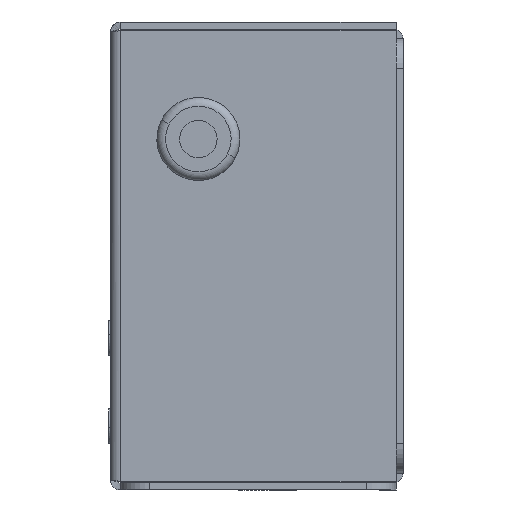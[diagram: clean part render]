
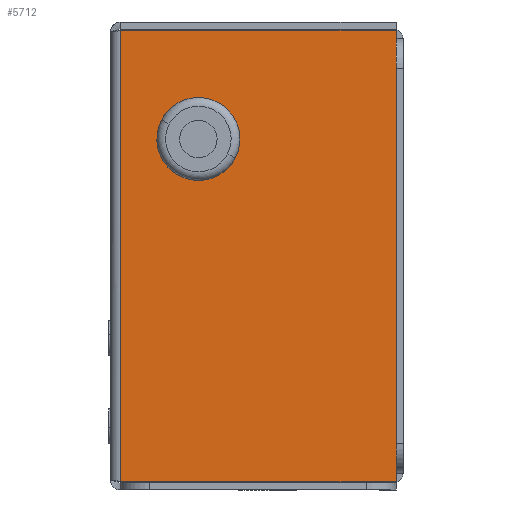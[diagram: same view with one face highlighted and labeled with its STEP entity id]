
A CAD part, left-side view. The second image highlights one B-rep face of the part: STEP entity #5712.
In plain terms, the highlighted planar face has unit normal (-1, 0, 0).
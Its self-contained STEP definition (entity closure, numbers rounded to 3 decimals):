
#588 = CARTESIAN_POINT ( 'NONE',  ( 0., -48.8, -44. ) ) ;
#696 = FACE_BOUND ( 'NONE', #3638, .T. ) ;
#1117 = DIRECTION ( 'NONE',  ( 0., 1., 0. ) ) ;
#1147 = LINE ( 'NONE', #7561, #10206 ) ;
#1356 = CARTESIAN_POINT ( 'NONE',  ( 0., -48.8, -36. ) ) ;
#1379 = DIRECTION ( 'NONE',  ( 0., -1., 0. ) ) ;
#1422 = ORIENTED_EDGE ( 'NONE', *, *, #8853, .F. ) ;
#1603 = DIRECTION ( 'NONE',  ( 0., 1., 0. ) ) ;
#1631 = EDGE_CURVE ( 'NONE', #14783, #2384, #5457, .T. ) ;
#2384 = VERTEX_POINT ( 'NONE', #10291 ) ;
#2411 = CIRCLE ( 'NONE', #7434, 5. ) ;
#2682 = VERTEX_POINT ( 'NONE', #12533 ) ;
#2785 = DIRECTION ( 'NONE',  ( 0., 1., 0. ) ) ;
#3066 = CARTESIAN_POINT ( 'NONE',  ( 0., -0.5, -78.623 ) ) ;
#3250 = DIRECTION ( 'NONE',  ( 1., 0., 0. ) ) ;
#3446 = LINE ( 'NONE', #8503, #12508 ) ;
#3638 = EDGE_LOOP ( 'NONE', ( #8477, #5368 ) ) ;
#3988 = LINE ( 'NONE', #1356, #11385 ) ;
#4300 = AXIS2_PLACEMENT_3D ( 'NONE', #15041, #3250, #10142 ) ;
#4390 = DIRECTION ( 'NONE',  ( 1., 0., 0. ) ) ;
#4395 = CARTESIAN_POINT ( 'NONE',  ( 0., -47.6, 0. ) ) ;
#4834 = LINE ( 'NONE', #4395, #11684 ) ;
#4854 = VERTEX_POINT ( 'NONE', #12213 ) ;
#4861 = ORIENTED_EDGE ( 'NONE', *, *, #12658, .F. ) ;
#5000 = EDGE_CURVE ( 'NONE', #10322, #7412, #1147, .T. ) ;
#5138 = ORIENTED_EDGE ( 'NONE', *, *, #11692, .T. ) ;
#5150 = VERTEX_POINT ( 'NONE', #5792 ) ;
#5228 = EDGE_CURVE ( 'NONE', #10322, #5150, #15189, .T. ) ;
#5368 = ORIENTED_EDGE ( 'NONE', *, *, #1631, .T. ) ;
#5457 = CIRCLE ( 'NONE', #9371, 5. ) ;
#5626 = CARTESIAN_POINT ( 'NONE',  ( 0., -47.6, -78.623 ) ) ;
#5712 = ADVANCED_FACE ( 'NONE', ( #7706, #696 ), #10191, .F. ) ;
#5792 = CARTESIAN_POINT ( 'NONE',  ( 0., -0.5, -1.377 ) ) ;
#6151 = LINE ( 'NONE', #10131, #7827 ) ;
#6330 = VECTOR ( 'NONE', #1603, 1000. ) ;
#6412 = VERTEX_POINT ( 'NONE', #10018 ) ;
#6624 = EDGE_LOOP ( 'NONE', ( #7381, #10598, #12790, #1422, #4861, #5138, #11591, #7512 ) ) ;
#6686 = EDGE_CURVE ( 'NONE', #5150, #4854, #3446, .T. ) ;
#6779 = DIRECTION ( 'NONE',  ( 0., -1., 0. ) ) ;
#7287 = CARTESIAN_POINT ( 'NONE',  ( 0., -0.5, 0. ) ) ;
#7381 = ORIENTED_EDGE ( 'NONE', *, *, #5228, .F. ) ;
#7412 = VERTEX_POINT ( 'NONE', #5626 ) ;
#7434 = AXIS2_PLACEMENT_3D ( 'NONE', #9355, #10511, #1117 ) ;
#7512 = ORIENTED_EDGE ( 'NONE', *, *, #6686, .F. ) ;
#7561 = CARTESIAN_POINT ( 'NONE',  ( 0., -47.6, -78.623 ) ) ;
#7597 = VECTOR ( 'NONE', #8429, 1000. ) ;
#7649 = CARTESIAN_POINT ( 'NONE',  ( 0., -48.8, -36. ) ) ;
#7706 = FACE_OUTER_BOUND ( 'NONE', #6624, .T. ) ;
#7827 = VECTOR ( 'NONE', #14984, 1000. ) ;
#8429 = DIRECTION ( 'NONE',  ( 0., 0., 1. ) ) ;
#8477 = ORIENTED_EDGE ( 'NONE', *, *, #10366, .T. ) ;
#8503 = CARTESIAN_POINT ( 'NONE',  ( 0., 0., -1.377 ) ) ;
#8685 = DIRECTION ( 'NONE',  ( 0., 0., -1. ) ) ;
#8853 = EDGE_CURVE ( 'NONE', #6412, #14371, #12634, .T. ) ;
#8943 = EDGE_CURVE ( 'NONE', #4854, #2682, #6151, .T. ) ;
#9088 = CARTESIAN_POINT ( 'NONE',  ( 0., -13.8, -20. ) ) ;
#9355 = CARTESIAN_POINT ( 'NONE',  ( 0., -13.8, -20. ) ) ;
#9371 = AXIS2_PLACEMENT_3D ( 'NONE', #9088, #4390, #13903 ) ;
#9454 = EDGE_CURVE ( 'NONE', #14371, #7412, #4834, .T. ) ;
#9763 = VECTOR ( 'NONE', #2785, 1000. ) ;
#10018 = CARTESIAN_POINT ( 'NONE',  ( 0., -48.8, -44. ) ) ;
#10131 = CARTESIAN_POINT ( 'NONE',  ( 0., -47.6, 0. ) ) ;
#10142 = DIRECTION ( 'NONE',  ( 0., 1., 0. ) ) ;
#10191 = PLANE ( 'NONE',  #4300 ) ;
#10206 = VECTOR ( 'NONE', #6779, 1000. ) ;
#10291 = CARTESIAN_POINT ( 'NONE',  ( 0., -18.8, -20. ) ) ;
#10322 = VERTEX_POINT ( 'NONE', #3066 ) ;
#10366 = EDGE_CURVE ( 'NONE', #2384, #14783, #2411, .T. ) ;
#10511 = DIRECTION ( 'NONE',  ( 1., 0., 0. ) ) ;
#10598 = ORIENTED_EDGE ( 'NONE', *, *, #5000, .T. ) ;
#10605 = DIRECTION ( 'NONE',  ( 0., 0., -1. ) ) ;
#11059 = LINE ( 'NONE', #7649, #9763 ) ;
#11191 = CARTESIAN_POINT ( 'NONE',  ( 0., -47.6, -44. ) ) ;
#11385 = VECTOR ( 'NONE', #10605, 1000. ) ;
#11591 = ORIENTED_EDGE ( 'NONE', *, *, #8943, .F. ) ;
#11613 = CARTESIAN_POINT ( 'NONE',  ( 0., -48.8, -36. ) ) ;
#11684 = VECTOR ( 'NONE', #8685, 1000. ) ;
#11692 = EDGE_CURVE ( 'NONE', #13121, #2682, #11059, .T. ) ;
#12002 = CARTESIAN_POINT ( 'NONE',  ( 0., -8.8, -20. ) ) ;
#12213 = CARTESIAN_POINT ( 'NONE',  ( 0., -47.6, -1.377 ) ) ;
#12508 = VECTOR ( 'NONE', #1379, 1000. ) ;
#12533 = CARTESIAN_POINT ( 'NONE',  ( 0., -47.6, -36. ) ) ;
#12634 = LINE ( 'NONE', #588, #6330 ) ;
#12658 = EDGE_CURVE ( 'NONE', #13121, #6412, #3988, .T. ) ;
#12790 = ORIENTED_EDGE ( 'NONE', *, *, #9454, .F. ) ;
#13121 = VERTEX_POINT ( 'NONE', #11613 ) ;
#13903 = DIRECTION ( 'NONE',  ( 0., 1., 0. ) ) ;
#14371 = VERTEX_POINT ( 'NONE', #11191 ) ;
#14783 = VERTEX_POINT ( 'NONE', #12002 ) ;
#14984 = DIRECTION ( 'NONE',  ( 0., 0., -1. ) ) ;
#15041 = CARTESIAN_POINT ( 'NONE',  ( 0., -47.6, 0. ) ) ;
#15189 = LINE ( 'NONE', #7287, #7597 ) ;
